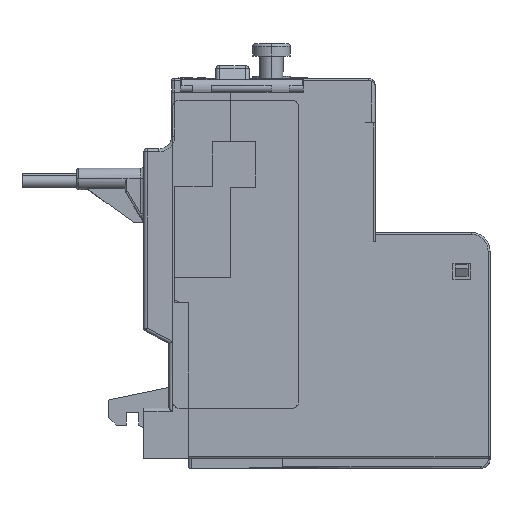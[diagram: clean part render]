
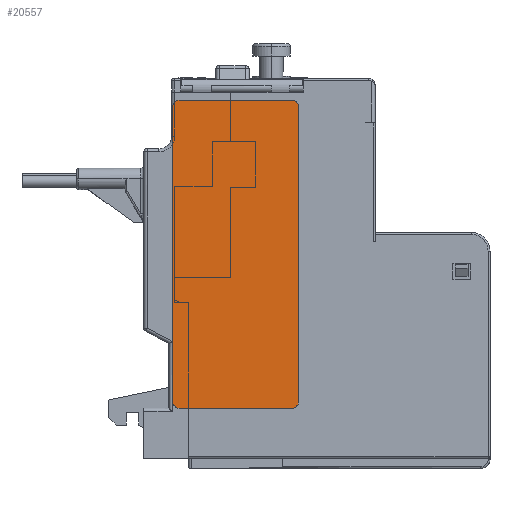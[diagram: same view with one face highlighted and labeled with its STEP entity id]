
A CAD part, left-side view. The second image highlights one B-rep face of the part: STEP entity #20557.
In plain terms, the highlighted planar face has unit normal (-1, 0, 0) as drawn and (0, -1, 0) by its records, which use the part's own axes.
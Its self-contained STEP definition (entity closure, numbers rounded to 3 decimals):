
#87 = VERTEX_POINT ( 'NONE', #113173 ) ;
#628 = AXIS2_PLACEMENT_3D ( 'NONE', #30664, #107791, #118609 ) ;
#871 = LINE ( 'NONE', #89561, #35507 ) ;
#1019 = ORIENTED_EDGE ( 'NONE', *, *, #84015, .T. ) ;
#2639 = EDGE_CURVE ( 'NONE', #100060, #46150, #61459, .T. ) ;
#3257 = DIRECTION ( 'NONE',  ( 0., -1., 0. ) ) ;
#4334 = LINE ( 'NONE', #80789, #135176 ) ;
#4587 = AXIS2_PLACEMENT_3D ( 'NONE', #100079, #14254, #126655 ) ;
#4782 = LINE ( 'NONE', #59555, #94300 ) ;
#5183 = DIRECTION ( 'NONE',  ( 0., -1., 0. ) ) ;
#5262 = VERTEX_POINT ( 'NONE', #46329 ) ;
#14254 = DIRECTION ( 'NONE',  ( 0., -1., 0. ) ) ;
#15468 = CARTESIAN_POINT ( 'NONE',  ( -14.3, -22.1, -16.5 ) ) ;
#15712 = ORIENTED_EDGE ( 'NONE', *, *, #2639, .T. ) ;
#19097 = VERTEX_POINT ( 'NONE', #127160 ) ;
#19127 = VERTEX_POINT ( 'NONE', #140109 ) ;
#19839 = CARTESIAN_POINT ( 'NONE',  ( -15.3, -22.1, 1.5 ) ) ;
#20557 = ADVANCED_FACE ( 'NONE', ( #93162 ), #70093, .T. ) ;
#22459 = EDGE_CURVE ( 'NONE', #19127, #37113, #124916, .T. ) ;
#24015 = VERTEX_POINT ( 'NONE', #101145 ) ;
#30664 = CARTESIAN_POINT ( 'NONE',  ( -14.3, -22.1, 1.5 ) ) ;
#35507 = VECTOR ( 'NONE', #61102, 1000. ) ;
#36762 = ORIENTED_EDGE ( 'NONE', *, *, #76055, .T. ) ;
#37113 = VERTEX_POINT ( 'NONE', #19839 ) ;
#38373 = DIRECTION ( 'NONE',  ( 0., 0., -1. ) ) ;
#38661 = DIRECTION ( 'NONE',  ( 0., 0., 1. ) ) ;
#40443 = AXIS2_PLACEMENT_3D ( 'NONE', #15468, #3257, #126479 ) ;
#44219 = CARTESIAN_POINT ( 'NONE',  ( -15.3, -22.1, 1.5 ) ) ;
#46150 = VERTEX_POINT ( 'NONE', #58003 ) ;
#46329 = CARTESIAN_POINT ( 'NONE',  ( -15.3, -22.1, -16.5 ) ) ;
#46368 = LINE ( 'NONE', #44219, #110614 ) ;
#48153 = ORIENTED_EDGE ( 'NONE', *, *, #92643, .T. ) ;
#48490 = CARTESIAN_POINT ( 'NONE',  ( 9.2, -22.1, -7.5 ) ) ;
#51940 = CARTESIAN_POINT ( 'NONE',  ( 32.7, -22.1, -17.5 ) ) ;
#52565 = ORIENTED_EDGE ( 'NONE', *, *, #87266, .T. ) ;
#58003 = CARTESIAN_POINT ( 'NONE',  ( 33.7, -22.1, -16.5 ) ) ;
#59555 = CARTESIAN_POINT ( 'NONE',  ( 33.7, -22.1, -16.5 ) ) ;
#61102 = DIRECTION ( 'NONE',  ( -1., 0., 0. ) ) ;
#61459 = CIRCLE ( 'NONE', #105195, 1. ) ;
#68607 = EDGE_CURVE ( 'NONE', #5262, #19097, #102605, .T. ) ;
#68955 = ORIENTED_EDGE ( 'NONE', *, *, #22459, .T. ) ;
#70093 = PLANE ( 'NONE',  #106178 ) ;
#71840 = DIRECTION ( 'NONE',  ( 0., 0., -1. ) ) ;
#73690 = ORIENTED_EDGE ( 'NONE', *, *, #68607, .T. ) ;
#76055 = EDGE_CURVE ( 'NONE', #37113, #5262, #46368, .T. ) ;
#80789 = CARTESIAN_POINT ( 'NONE',  ( -14.3, -22.1, -17.5 ) ) ;
#81978 = DIRECTION ( 'NONE',  ( 0., -1., 0. ) ) ;
#84015 = EDGE_CURVE ( 'NONE', #19097, #100060, #4334, .T. ) ;
#87266 = EDGE_CURVE ( 'NONE', #46150, #87, #4782, .T. ) ;
#89561 = CARTESIAN_POINT ( 'NONE',  ( 32.7, -22.1, 2.5 ) ) ;
#92643 = EDGE_CURVE ( 'NONE', #24015, #19127, #871, .T. ) ;
#93162 = FACE_OUTER_BOUND ( 'NONE', #103920, .T. ) ;
#94300 = VECTOR ( 'NONE', #38661, 1000. ) ;
#94425 = CIRCLE ( 'NONE', #4587, 1. ) ;
#100060 = VERTEX_POINT ( 'NONE', #51940 ) ;
#100079 = CARTESIAN_POINT ( 'NONE',  ( 32.7, -22.1, 1.5 ) ) ;
#101145 = CARTESIAN_POINT ( 'NONE',  ( 32.7, -22.1, 2.5 ) ) ;
#102605 = CIRCLE ( 'NONE', #40443, 1. ) ;
#103920 = EDGE_LOOP ( 'NONE', ( #1019, #15712, #52565, #118779, #48153, #68955, #36762, #73690 ) ) ;
#105195 = AXIS2_PLACEMENT_3D ( 'NONE', #136039, #81978, #71840 ) ;
#106178 = AXIS2_PLACEMENT_3D ( 'NONE', #48490, #5183, #38373 ) ;
#107791 = DIRECTION ( 'NONE',  ( 0., -1., 0. ) ) ;
#110614 = VECTOR ( 'NONE', #131438, 1000. ) ;
#113173 = CARTESIAN_POINT ( 'NONE',  ( 33.7, -22.1, 1.5 ) ) ;
#118609 = DIRECTION ( 'NONE',  ( 0., 0., 1. ) ) ;
#118779 = ORIENTED_EDGE ( 'NONE', *, *, #119645, .T. ) ;
#119645 = EDGE_CURVE ( 'NONE', #87, #24015, #94425, .T. ) ;
#124916 = CIRCLE ( 'NONE', #628, 1. ) ;
#126479 = DIRECTION ( 'NONE',  ( -1., 0., 0. ) ) ;
#126655 = DIRECTION ( 'NONE',  ( 1., 0., 0. ) ) ;
#127160 = CARTESIAN_POINT ( 'NONE',  ( -14.3, -22.1, -17.5 ) ) ;
#131438 = DIRECTION ( 'NONE',  ( 0., 0., -1. ) ) ;
#134842 = DIRECTION ( 'NONE',  ( 1., 0., 0. ) ) ;
#135176 = VECTOR ( 'NONE', #134842, 1000. ) ;
#136039 = CARTESIAN_POINT ( 'NONE',  ( 32.7, -22.1, -16.5 ) ) ;
#140109 = CARTESIAN_POINT ( 'NONE',  ( -14.3, -22.1, 2.5 ) ) ;
